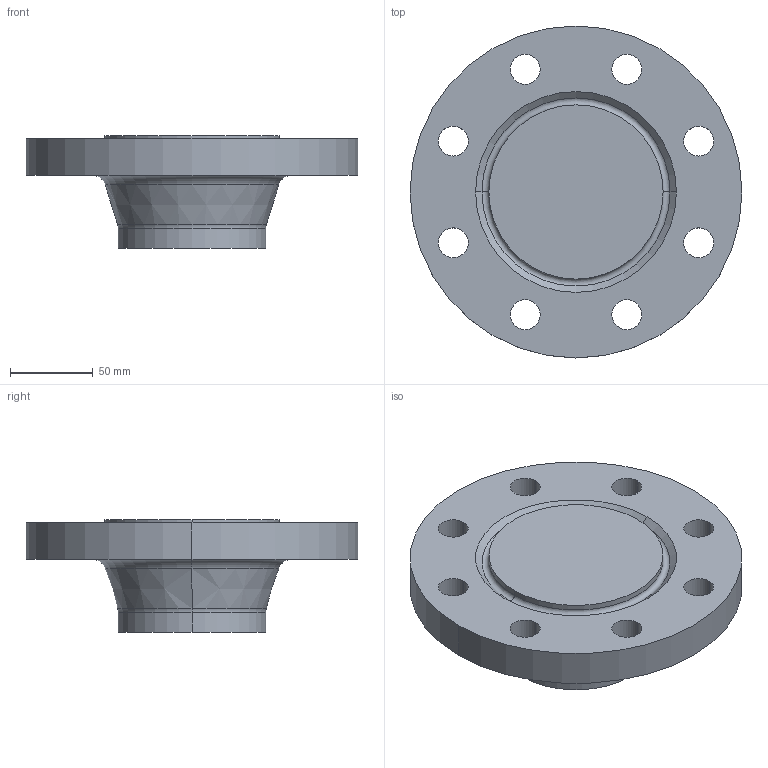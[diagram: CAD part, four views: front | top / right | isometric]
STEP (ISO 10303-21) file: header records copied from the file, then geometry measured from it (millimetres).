
FILE_DESCRIPTION (( 'STEP AP214' ), '1' );
FILE_NAME ('PN40 DN80 Type 21(ii) - Type H Face.STEP', '2019-01-01T17:17:58', ( '' ), ( '' ), 'SwSTEP 2.0', 'SolidWorks 2019', '' );
FILE_SCHEMA (( 'AUTOMOTIVE_DESIGN' ));
Length unit declared in the file: millimetre
Products named in the file (1): PN40 DN80 Type 21(ii) - Type H Face
Bounding box: 200 x 200 x 68 mm (x, y, z)
Volume: 976164.1 mm3; surface area: 94836.1 mm2
Topology: 1 solids, 1 shells, 36 faces, 86 edges, 54 vertices
Faces by surface type: cylinder 22, torus 6, cone 4, plane 4
Entity records: 1136 total; most frequent: DIRECTION 220, CARTESIAN_POINT 177, ORIENTED_EDGE 172, AXIS2_PLACEMENT_3D 97, EDGE_CURVE 86, CIRCLE 60, EDGE_LOOP 54, VERTEX_POINT 54
